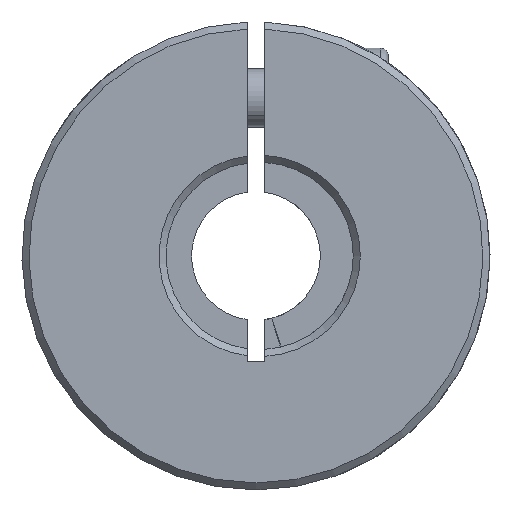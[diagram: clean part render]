
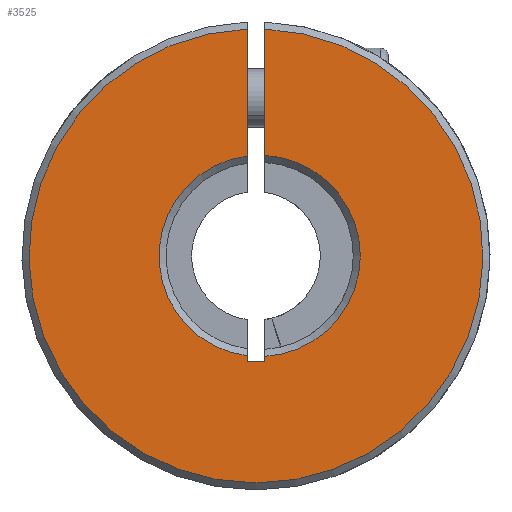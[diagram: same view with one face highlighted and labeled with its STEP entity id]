
A CAD part, front view. The second image highlights one B-rep face of the part: STEP entity #3525.
In plain terms, the highlighted planar face has unit normal (0, -1, 0).
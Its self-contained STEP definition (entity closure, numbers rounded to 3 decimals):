
#133 = VECTOR ( 'NONE', #551, 1000. ) ;
#243 = EDGE_CURVE ( 'NONE', #1255, #2360, #6026, .T. ) ;
#258 = LINE ( 'NONE', #3565, #4188 ) ;
#381 = AXIS2_PLACEMENT_3D ( 'NONE', #5899, #4598, #410 ) ;
#410 = DIRECTION ( 'NONE',  ( 0., 0., 1. ) ) ;
#419 = CARTESIAN_POINT ( 'NONE',  ( 0., -30., 0. ) ) ;
#502 = VECTOR ( 'NONE', #4897, 1000. ) ;
#551 = DIRECTION ( 'NONE',  ( 0., 0., 1. ) ) ;
#555 = EDGE_CURVE ( 'NONE', #1807, #4788, #3988, .T. ) ;
#636 = ORIENTED_EDGE ( 'NONE', *, *, #3593, .T. ) ;
#700 = VERTEX_POINT ( 'NONE', #3474 ) ;
#770 = EDGE_CURVE ( 'NONE', #2360, #4073, #3679, .T. ) ;
#788 = DIRECTION ( 'NONE',  ( 0., 1., 0. ) ) ;
#844 = CARTESIAN_POINT ( 'NONE',  ( 0.314, -30., 0. ) ) ;
#1080 = AXIS2_PLACEMENT_3D ( 'NONE', #419, #788, #2626 ) ;
#1181 = EDGE_CURVE ( 'NONE', #4012, #1255, #258, .T. ) ;
#1255 = VERTEX_POINT ( 'NONE', #5979 ) ;
#1260 = CARTESIAN_POINT ( 'NONE',  ( -0.75, -30., -9. ) ) ;
#1323 = CARTESIAN_POINT ( 'NONE',  ( -0.75, -30., 19.385 ) ) ;
#1356 = AXIS2_PLACEMENT_3D ( 'NONE', #844, #2228, #4118 ) ;
#1376 = ORIENTED_EDGE ( 'NONE', *, *, #770, .T. ) ;
#1509 = ORIENTED_EDGE ( 'NONE', *, *, #555, .T. ) ;
#1558 = CIRCLE ( 'NONE', #4974, 19.4 ) ;
#1586 = ORIENTED_EDGE ( 'NONE', *, *, #243, .T. ) ;
#1807 = VERTEX_POINT ( 'NONE', #4692 ) ;
#2014 = CARTESIAN_POINT ( 'NONE',  ( -0.75, -30., 8.534 ) ) ;
#2032 = ORIENTED_EDGE ( 'NONE', *, *, #4096, .T. ) ;
#2045 = CARTESIAN_POINT ( 'NONE',  ( 0.75, -30., -9. ) ) ;
#2159 = DIRECTION ( 'NONE',  ( -1., 0., 0. ) ) ;
#2163 = LINE ( 'NONE', #1260, #4969 ) ;
#2228 = DIRECTION ( 'NONE',  ( 0., 1., 0. ) ) ;
#2360 = VERTEX_POINT ( 'NONE', #4587 ) ;
#2622 = ORIENTED_EDGE ( 'NONE', *, *, #3294, .T. ) ;
#2626 = DIRECTION ( 'NONE',  ( 0., 0., 1. ) ) ;
#2748 = CARTESIAN_POINT ( 'NONE',  ( 0.75, -30., -9. ) ) ;
#3168 = DIRECTION ( 'NONE',  ( 0., 0., 1. ) ) ;
#3294 = EDGE_CURVE ( 'NONE', #4175, #700, #1558, .T. ) ;
#3474 = CARTESIAN_POINT ( 'NONE',  ( 0.75, -30., 19.385 ) ) ;
#3525 = ADVANCED_FACE ( 'NONE', ( #4483 ), #5422, .F. ) ;
#3565 = CARTESIAN_POINT ( 'NONE',  ( -0.75, -30., -9. ) ) ;
#3593 = EDGE_CURVE ( 'NONE', #700, #1807, #4724, .T. ) ;
#3679 = CIRCLE ( 'NONE', #381, 8.6 ) ;
#3960 = ORIENTED_EDGE ( 'NONE', *, *, #1181, .T. ) ;
#3988 = CIRCLE ( 'NONE', #1356, 8.6 ) ;
#4012 = VERTEX_POINT ( 'NONE', #2748 ) ;
#4073 = VERTEX_POINT ( 'NONE', #2014 ) ;
#4096 = EDGE_CURVE ( 'NONE', #4788, #4012, #4838, .T. ) ;
#4118 = DIRECTION ( 'NONE',  ( 0., 0., 1. ) ) ;
#4167 = EDGE_CURVE ( 'NONE', #4073, #4175, #2163, .T. ) ;
#4175 = VERTEX_POINT ( 'NONE', #1323 ) ;
#4188 = VECTOR ( 'NONE', #2159, 1000. ) ;
#4205 = VECTOR ( 'NONE', #4236, 1000. ) ;
#4236 = DIRECTION ( 'NONE',  ( 0., 0., -1. ) ) ;
#4343 = CARTESIAN_POINT ( 'NONE',  ( 0.75, -30., -8.589 ) ) ;
#4483 = FACE_OUTER_BOUND ( 'NONE', #5765, .T. ) ;
#4587 = CARTESIAN_POINT ( 'NONE',  ( -0.75, -30., -8.534 ) ) ;
#4598 = DIRECTION ( 'NONE',  ( 0., 1., 0. ) ) ;
#4677 = CARTESIAN_POINT ( 'NONE',  ( 0., -30., 0. ) ) ;
#4692 = CARTESIAN_POINT ( 'NONE',  ( 0.75, -30., 8.589 ) ) ;
#4724 = LINE ( 'NONE', #5218, #4205 ) ;
#4788 = VERTEX_POINT ( 'NONE', #4343 ) ;
#4838 = LINE ( 'NONE', #2045, #502 ) ;
#4897 = DIRECTION ( 'NONE',  ( 0., 0., -1. ) ) ;
#4953 = DIRECTION ( 'NONE',  ( 0., 0., 1. ) ) ;
#4969 = VECTOR ( 'NONE', #4953, 1000. ) ;
#4974 = AXIS2_PLACEMENT_3D ( 'NONE', #4677, #5955, #3168 ) ;
#5061 = ORIENTED_EDGE ( 'NONE', *, *, #4167, .T. ) ;
#5129 = CARTESIAN_POINT ( 'NONE',  ( -0.75, -30., -9. ) ) ;
#5218 = CARTESIAN_POINT ( 'NONE',  ( 0.75, -30., -9. ) ) ;
#5422 = PLANE ( 'NONE',  #1080 ) ;
#5765 = EDGE_LOOP ( 'NONE', ( #636, #1509, #2032, #3960, #1586, #1376, #5061, #2622 ) ) ;
#5899 = CARTESIAN_POINT ( 'NONE',  ( 0.314, -30., 0. ) ) ;
#5955 = DIRECTION ( 'NONE',  ( 0., -1., 0. ) ) ;
#5979 = CARTESIAN_POINT ( 'NONE',  ( -0.75, -30., -9. ) ) ;
#6026 = LINE ( 'NONE', #5129, #133 ) ;
